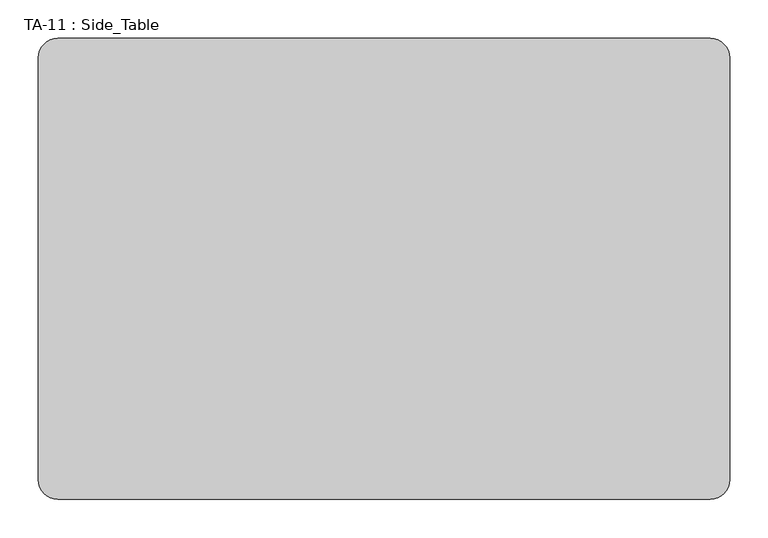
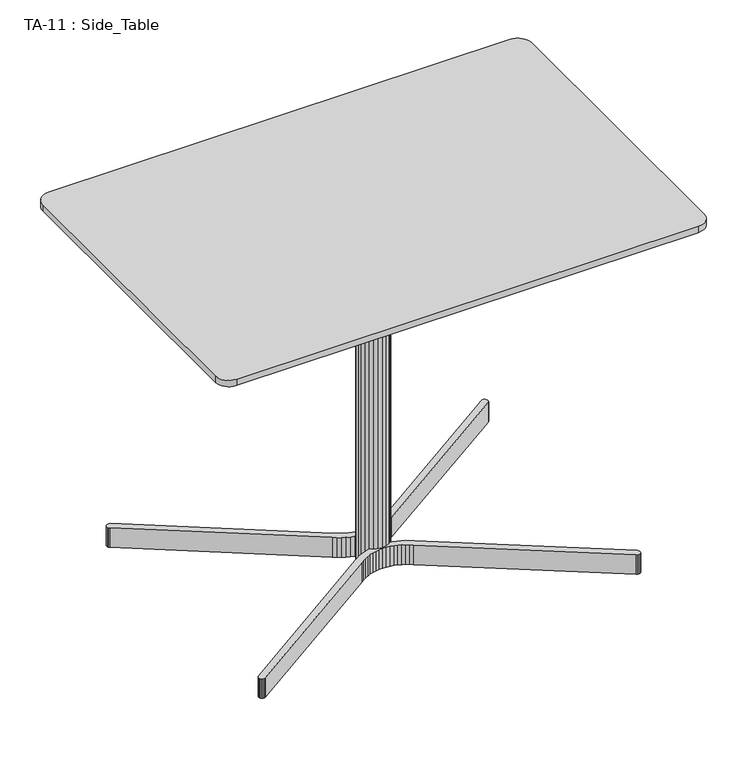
"""IFC4 building model written with IfcOpenShell, lengths in millimetres: furniture geometry, TA-11 : Side_Table."""

from ifc_helpers import new_model, si_unit, point, frame, frame_2d, origin, origin_with_axes, place, context, project, spatial, polyline, circle_curve, trimmed, segment, composite_curve, outline, extrude, faceted_brep, source, transform, mapped, element, save


def ta_11_side_table_e2450a0a(model_context):
    return source(origin(), model_context, "Body", "SolidModel", [
        extrude(outline(composite_curve([segment(trimmed(circle_curve(frame_2d((425.0, 275.0)), 25.0), [point((425.0, 300.0))], [point((450.0, 275.0))], False, "CARTESIAN"), True, "CONTINUOUS"), segment(polyline([(450.0, 275.0), (450.0, -275.0)]), True, "CONTINUOUS"), segment(trimmed(circle_curve(frame_2d((425.0, -275.0)), 25.0), [point((450.0, -275.0))], [point((425.0, -300.0))], False, "CARTESIAN"), True, "CONTINUOUS"), segment(polyline([(425.0, -300.0), (-425.0, -300.0)]), True, "CONTINUOUS"), segment(trimmed(circle_curve(frame_2d((-425.0, -275.0)), 25.0), [point((-425.0, -300.0))], [point((-450.0, -275.0))], False, "CARTESIAN"), True, "CONTINUOUS"), segment(polyline([(-450.0, -275.0), (-450.0, 275.0)]), True, "CONTINUOUS"), segment(trimmed(circle_curve(frame_2d((-425.0, 275.0)), 25.0), [point((-450.0, 275.0))], [point((-425.0, 300.0))], False, "CARTESIAN"), True, "CONTINUOUS"), segment(polyline([(-425.0, 300.0), (425.0, 300.0)]), True, "CONTINUOUS")], self_intersect=False)), frame((0.0, 0.0, 668.0000305), z_axis=(0.0, 0.0, 1.0), x_axis=(1.0, 0.0, 0.0)), (0.0, 0.0, 1.0), 11.9999695),
        faceted_brep([(-341.6000911, -247.2206538, 38.1901741), (-47.6467942, -46.6987896, 38.1901741), (-42.1938086, -42.9217815, 38.1901741), (-36.8488317, -39.6491662, 38.1901741), (-31.1960387, -36.8247534, 38.1901741), (-25.280757, -34.4754339, 38.1901741), (-19.1514254, -32.6237799, 38.1901741), (-12.8591657, -31.2880255, 38.1901741), (-6.4571327, -30.481217, 38.1901741), (0.0001341, -30.2114035, 38.1901741), (6.4574009, -30.4812551, 38.1901741), (12.8594279, -31.2880636, 38.1901741), (19.151684, -32.6238562, 38.1901741), (25.2810001, -34.4755102, 38.1901741), (31.1962795, -36.8248297, 38.1901741), (36.849037, -39.6493082, 38.1901741), (42.1940231, -42.9219341, 38.1901741), (47.6470327, -46.6989422, 38.1901741), (341.6007996, -247.2209549, 38.1901741), (343.7547684, -248.1364822, 38.1901741), (346.0955048, -248.1596756, 38.1901741), (348.2666779, -247.2844315, 38.1901741), (349.9380493, -245.6450272, 38.1901741), (350.8548737, -243.4904861, 38.1901741), (350.8772659, -241.1491776, 38.1901741), (350.002327, -238.9787674, 38.1901741), (348.3630371, -237.3076248, 38.1901741), (54.4093418, -36.785841, 38.1901741), (48.6224365, -32.8434301, 38.1901741), (42.4876642, -29.0851904, 38.1901741), (35.9876585, -25.8364893, 38.1901741), (29.1757202, -23.1306291, 38.1901741), (22.109158, -20.9958006, 38.1901741), (14.848603, -19.4544512, 38.1901741), (7.4573016, -18.5230184, 38.1901741), (0.0001549, -18.2113958, 38.1901741), (-7.4569934, -18.5229803, 38.1901741), (-14.8483156, -19.4544149, 38.1901741), (-22.1088509, -20.9957201, 38.1901741), (-29.1754293, -23.1305338, 38.1901741), (-35.9873842, -25.8363748, 38.1901741), (-42.4874066, -29.0850759, 38.1901741), (-48.6221933, -32.8432775, 38.1901741), (-54.4091081, -36.7856145, 38.1901741), (-348.3634229, -237.3080181, 38.1901741), (-350.002327, -238.9787674, 38.1901741), (-350.8772659, -241.1491776, 38.1901741), (-350.8548737, -243.4904861, 38.1901741), (-349.9380493, -245.6450272, 38.1901741), (-348.2666779, -247.2844315, 38.1901741), (-346.0955048, -248.1596756, 38.1901741), (-343.7547684, -248.1364822, 38.1901741), (-341.6000911, -247.2206538, 0.0), (-343.7547684, -248.1364822, 0.0), (-346.0955048, -248.1596756, 0.0), (-348.2666779, -247.2844315, 0.0), (-349.9380493, -245.6450272, 0.0), (-350.8548737, -243.4904861, 0.0), (-350.8772659, -241.1491776, 0.0), (-350.002327, -238.9787674, 0.0), (-348.3634229, -237.3080181, 0.0), (-54.4091081, -36.7856121, 0.0), (-48.6221933, -32.8432775, 0.0), (-42.4874066, -29.0850759, 0.0), (-35.9873842, -25.8363748, 0.0), (-29.1754293, -23.1305338, 0.0), (-22.1088509, -20.9957201, 0.0), (-14.8483156, -19.4544149, 0.0), (-7.4569934, -18.5229803, 0.0), (0.0001549, -18.2113958, 0.0), (7.4573016, -18.5230184, 0.0), (14.848603, -19.4544512, 0.0), (22.109158, -20.9958006, 0.0), (29.1757202, -23.1306291, 0.0), (35.9876585, -25.8364893, 0.0), (42.4876642, -29.0851904, 0.0), (48.6224365, -32.8434301, 0.0), (54.4093418, -36.7858434, 0.0), (348.3630371, -237.3076248, 0.0), (350.002327, -238.9787674, 0.0), (350.8772659, -241.1491776, 0.0), (350.8548737, -243.4904861, 0.0), (349.9380493, -245.6450272, 0.0), (348.2666779, -247.2844315, 0.0), (346.0955048, -248.1596756, 0.0), (343.7547684, -248.1364822, 0.0), (341.6007996, -247.2209549, 0.0), (47.6470327, -46.6989422, 0.0), (42.1940231, -42.9219341, 0.0), (36.849037, -39.6493082, 0.0), (31.1962795, -36.8248297, 0.0), (25.2810001, -34.4755102, 0.0), (19.151684, -32.6238562, 0.0), (12.8594279, -31.2880636, 0.0), (6.4574009, -30.4812551, 0.0), (0.0001341, -30.2114035, 0.0), (-6.4571327, -30.481217, 0.0), (-12.8591657, -31.2880255, 0.0), (-19.1514254, -32.6237799, 0.0), (-25.280757, -34.4754339, 0.0), (-31.1960387, -36.8247534, 0.0), (-36.8488317, -39.6491662, 0.0), (-42.1938086, -42.9217815, 0.0), (-47.6467942, -46.6987896, 0.0)], [[[0, 1, 2, 3, 4, 5, 6, 7, 8, 9, 10, 11, 12, 13, 14, 15, 16, 17, 18, 19, 20, 21, 22, 23, 24, 25, 26, 27, 28, 29, 30, 31, 32, 33, 34, 35, 36, 37, 38, 39, 40, 41, 42, 43, 44, 45, 46, 47, 48, 49, 50, 51]], [[52, 53, 54, 55, 56, 57, 58, 59, 60, 61, 62, 63, 64, 65, 66, 67, 68, 69, 70, 71, 72, 73, 74, 75, 76, 77, 78, 79, 80, 81, 82, 83, 84, 85, 86, 87, 88, 89, 90, 91, 92, 93, 94, 95, 96, 97, 98, 99, 100, 101, 102, 103]], [[0, 51, 53, 52]], [[51, 50, 54, 53]], [[50, 49, 55, 54]], [[49, 48, 56, 55]], [[48, 47, 57, 56]], [[47, 46, 58, 57]], [[46, 45, 59, 58]], [[45, 44, 60, 59]], [[44, 43, 61, 60]], [[43, 42, 62, 61]], [[42, 41, 63, 62]], [[41, 40, 64, 63]], [[40, 39, 65, 64]], [[39, 38, 66, 65]], [[38, 37, 67, 66]], [[37, 36, 68, 67]], [[36, 35, 69, 68]], [[35, 34, 70, 69]], [[34, 33, 71, 70]], [[33, 32, 72, 71]], [[32, 31, 73, 72]], [[31, 30, 74, 73]], [[30, 29, 75, 74]], [[29, 28, 76, 75]], [[28, 27, 77, 76]], [[27, 26, 78, 77]], [[26, 25, 79, 78]], [[25, 24, 80, 79]], [[24, 23, 81, 80]], [[23, 22, 82, 81]], [[22, 21, 83, 82]], [[21, 20, 84, 83]], [[20, 19, 85, 84]], [[19, 18, 86, 85]], [[18, 17, 87, 86]], [[17, 16, 88, 87]], [[16, 15, 89, 88]], [[15, 14, 90, 89]], [[14, 13, 91, 90]], [[13, 12, 92, 91]], [[12, 11, 93, 92]], [[11, 10, 94, 93]], [[10, 9, 95, 94]], [[9, 8, 96, 95]], [[8, 7, 97, 96]], [[7, 6, 98, 97]], [[6, 5, 99, 98]], [[5, 4, 100, 99]], [[4, 3, 101, 100]], [[3, 2, 102, 101]], [[2, 1, 103, 102]], [[1, 0, 52, 103]]]),
        extrude(outline(polyline([(112.0003033, 114.9999714), (114.1214085, 114.1213799), (115.0, 112.0002747), (115.0, -112.0003319), (114.1214085, -114.1214371), (112.0003033, -115.0000286), (-112.0003033, -115.0000286), (-114.1214085, -114.1214371), (-115.0, -112.0003319), (-115.0, 112.0002747), (-114.1214085, 114.1213799), (-112.0003033, 114.9999714), (112.0003033, 114.9999714)])), frame((0.0, 0.0, 659.9999237), z_axis=(0.0, 0.0, 1.0), x_axis=(1.0, 0.0, 0.0)), (0.0, 0.0, 1.0), 8.0001068),
        faceted_brep([(-341.6000911, 247.2206538, 38.1901861), (-343.7547684, 248.1364822, 38.1901861), (-346.0955048, 248.1596756, 38.1901861), (-348.2666779, 247.2844315, 38.1901861), (-349.9380493, 245.6450272, 38.1901861), (-350.8548737, 243.4904861, 38.1901861), (-350.8772659, 241.1491776, 38.1901861), (-350.002327, 238.9787674, 38.1901861), (-348.3634229, 237.3080181, 38.1901861), (-54.4091081, 36.7856121, 38.1901861), (-48.6221933, 32.8432775, 38.1901861), (-42.4874066, 29.0850759, 38.1901861), (-35.9873842, 25.8363748, 38.1901861), (-29.1754293, 23.1305338, 38.1901861), (-22.1088509, 20.9957201, 38.1901861), (-14.8483156, 19.4544149, 38.1901861), (-7.4569934, 18.5229803, 38.1901861), (0.0001549, 18.2113958, 38.1901861), (7.4573016, 18.5230184, 38.1901861), (14.848603, 19.4544512, 38.1901861), (22.109158, 20.9958006, 38.1901861), (29.1757202, 23.1306291, 38.1901861), (35.9876585, 25.8364893, 38.1901861), (42.4876642, 29.0851904, 38.1901861), (48.6224365, 32.8434301, 38.1901861), (54.4093418, 36.7858434, 38.1901861), (348.3630371, 237.3076248, 38.1901861), (350.002327, 238.9787674, 38.1901861), (350.8772659, 241.1491776, 38.1901861), (350.8548737, 243.4904861, 38.1901861), (349.9380493, 245.6450272, 38.1901861), (348.2666779, 247.2844315, 38.1901861), (346.0955048, 248.1596756, 38.1901861), (343.7547684, 248.1364822, 38.1901861), (341.6007996, 247.2209549, 38.1901861), (47.6470327, 46.6989422, 38.1901861), (42.1940231, 42.9219341, 38.1901861), (36.849037, 39.6493082, 38.1901861), (31.1962795, 36.8248297, 38.1901861), (25.2810001, 34.4755102, 38.1901861), (19.151684, 32.6238562, 38.1901861), (12.8594279, 31.2880636, 38.1901861), (6.4574009, 30.4812551, 38.1901861), (0.0001341, 30.2114035, 38.1901861), (-6.4571327, 30.481217, 38.1901861), (-12.8591657, 31.2880255, 38.1901861), (-19.1514254, 32.6237799, 38.1901861), (-25.280757, 34.4754339, 38.1901861), (-31.1960387, 36.8247534, 38.1901861), (-36.8488317, 39.6491662, 38.1901861), (-42.1938086, 42.9217815, 38.1901861), (-47.6467942, 46.6987896, 38.1901861), (-341.6000911, 247.2206538, 0.0), (-47.6467942, 46.6987896, 0.0), (-42.1938086, 42.9217815, 0.0), (-36.8488317, 39.6491662, 0.0), (-31.1960387, 36.8247534, 0.0), (-25.280757, 34.4754339, 0.0), (-19.1514254, 32.6237799, 0.0), (-12.8591657, 31.2880255, 0.0), (-6.4571327, 30.481217, 0.0), (0.0001341, 30.2114035, 0.0), (6.4574009, 30.4812551, 0.0), (12.8594279, 31.2880636, 0.0), (19.151684, 32.6238562, 0.0), (25.2810001, 34.4755102, 0.0), (31.1962795, 36.8248297, 0.0), (36.849037, 39.6493082, 0.0), (42.1940231, 42.9219341, 0.0), (47.6470327, 46.6989422, 0.0), (341.6007996, 247.2209549, 0.0), (343.7547684, 248.1364822, 0.0), (346.0955048, 248.1596756, 0.0), (348.2666779, 247.2844315, 0.0), (349.9380493, 245.6450272, 0.0), (350.8548737, 243.4904861, 0.0), (350.8772659, 241.1491776, 0.0), (350.002327, 238.9787674, 0.0), (348.3630371, 237.3076248, 0.0), (54.4093418, 36.785841, 0.0), (48.6224365, 32.8434301, 0.0), (42.4876642, 29.0851904, 0.0), (35.9876585, 25.8364893, 0.0), (29.1757202, 23.1306291, 0.0), (22.109158, 20.9958006, 0.0), (14.848603, 19.4544512, 0.0), (7.4573016, 18.5230184, 0.0), (0.0001549, 18.2113958, 0.0), (-7.4569934, 18.5229803, 0.0), (-14.8483156, 19.4544149, 0.0), (-22.1088509, 20.9957201, 0.0), (-29.1754293, 23.1305338, 0.0), (-35.9873842, 25.8363748, 0.0), (-42.4874066, 29.0850759, 0.0), (-48.6221933, 32.8432775, 0.0), (-54.4091081, 36.7856145, 0.0), (-348.3634229, 237.3080181, 0.0), (-350.002327, 238.9787674, 0.0), (-350.8772659, 241.1491776, 0.0), (-350.8548737, 243.4904861, 0.0), (-349.9380493, 245.6450272, 0.0), (-348.2666779, 247.2844315, 0.0), (-346.0955048, 248.1596756, 0.0), (-343.7547684, 248.1364822, 0.0)], [[[0, 1, 2, 3, 4, 5, 6, 7, 8, 9, 10, 11, 12, 13, 14, 15, 16, 17, 18, 19, 20, 21, 22, 23, 24, 25, 26, 27, 28, 29, 30, 31, 32, 33, 34, 35, 36, 37, 38, 39, 40, 41, 42, 43, 44, 45, 46, 47, 48, 49, 50, 51]], [[52, 53, 54, 55, 56, 57, 58, 59, 60, 61, 62, 63, 64, 65, 66, 67, 68, 69, 70, 71, 72, 73, 74, 75, 76, 77, 78, 79, 80, 81, 82, 83, 84, 85, 86, 87, 88, 89, 90, 91, 92, 93, 94, 95, 96, 97, 98, 99, 100, 101, 102, 103]], [[1, 0, 52, 103]], [[2, 1, 103, 102]], [[3, 2, 102, 101]], [[4, 3, 101, 100]], [[5, 4, 100, 99]], [[6, 5, 99, 98]], [[7, 6, 98, 97]], [[8, 7, 97, 96]], [[9, 8, 96, 95]], [[10, 9, 95, 94]], [[11, 10, 94, 93]], [[12, 11, 93, 92]], [[13, 12, 92, 91]], [[14, 13, 91, 90]], [[15, 14, 90, 89]], [[16, 15, 89, 88]], [[17, 16, 88, 87]], [[18, 17, 87, 86]], [[19, 18, 86, 85]], [[20, 19, 85, 84]], [[21, 20, 84, 83]], [[22, 21, 83, 82]], [[23, 22, 82, 81]], [[24, 23, 81, 80]], [[25, 24, 80, 79]], [[26, 25, 79, 78]], [[27, 26, 78, 77]], [[28, 27, 77, 76]], [[29, 28, 76, 75]], [[30, 29, 75, 74]], [[31, 30, 74, 73]], [[32, 31, 73, 72]], [[33, 32, 72, 71]], [[34, 33, 71, 70]], [[35, 34, 70, 69]], [[36, 35, 69, 68]], [[37, 36, 68, 67]], [[38, 37, 67, 66]], [[39, 38, 66, 65]], [[40, 39, 65, 64]], [[41, 40, 64, 63]], [[42, 41, 63, 62]], [[43, 42, 62, 61]], [[44, 43, 61, 60]], [[45, 44, 60, 59]], [[46, 45, 59, 58]], [[47, 46, 58, 57]], [[48, 47, 57, 56]], [[49, 48, 56, 55]], [[50, 49, 55, 54]], [[51, 50, 54, 53]], [[0, 51, 53, 52]]]),
        extrude(outline(polyline([(24.2708564, 14.012754), (27.0706224, 7.2535235), (28.0255842, -2.59e-05), (27.0706344, -7.2535843), (24.2708659, -14.0128207), (19.8170781, -19.8171091), (14.0127897, -24.2708945), (7.2535527, -27.0706606), (-1.3e-06, -28.0256081), (-7.2535545, -27.0706582), (-14.0127909, -24.2708898), (-19.8170781, -19.8171043), (-24.2708611, -14.012816), (-27.0706296, -7.2535801), (-28.0255771, -2.68e-05), (-27.0706272, 7.2535259), (-24.2708588, 14.0127611), (-19.8170733, 19.8170483), (-14.0127838, 24.2708325), (-7.2535485, 27.0705962), (4.1e-06, 28.0255413), (7.2535545, 27.0705914), (14.0127873, 24.2708254), (19.8170733, 19.81704), (24.2708564, 14.012754)])), origin_with_axes(), (0.0, 0.0, 1.0), 659.9999237),
    ])


if __name__ == "__main__":
    model = new_model("IFC4")
    model_context = context("Model", 3, world=origin())
    ifc_project = project(units=[si_unit("LENGTHUNIT", "METRE", prefix="MILLI")], contexts=[model_context])
    site = spatial("IfcSite", under=ifc_project)
    building = spatial("IfcBuilding", under=site)
    placement = place(None, origin())
    ta_11_side_table_shape = ta_11_side_table_e2450a0a(model_context)
    element("IfcFurniture", 1, ObjectType="TA-11 : Side_Table", at=placement, inside=building, context=model_context, shape_type="MappedRepresentation", body=[
        mapped(ta_11_side_table_shape, transform((0.0, 0.0, 0.0), x_axis=(1.0, 0.0, 0.0), y_axis=(0.0, 1.0, 0.0), z_axis=(0.0, 0.0, 1.0))),
    ])
    save(model, "model.ifc")
